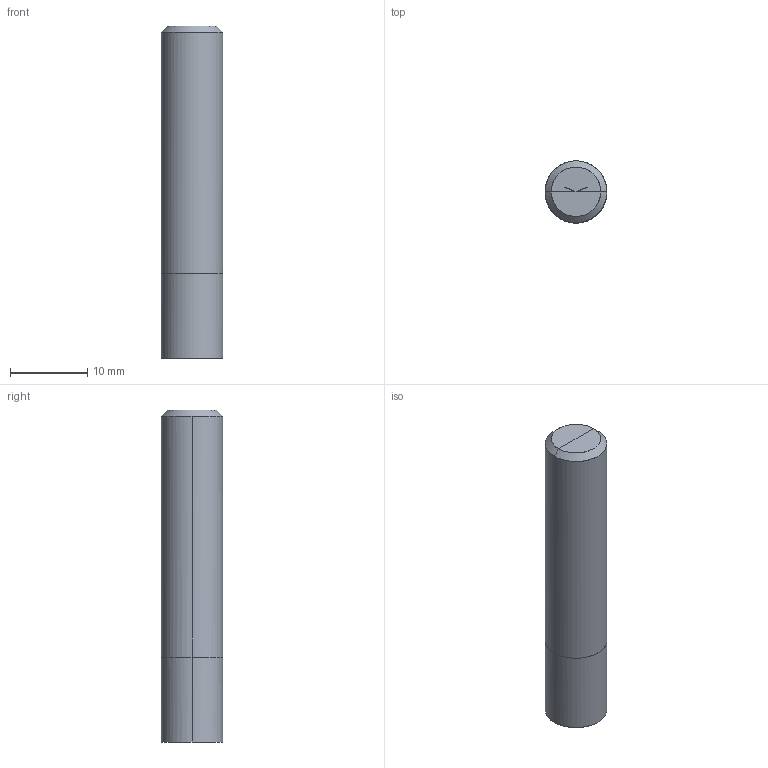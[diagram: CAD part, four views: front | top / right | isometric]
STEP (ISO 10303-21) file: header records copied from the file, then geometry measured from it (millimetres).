
FILE_DESCRIPTION(/* description */ (''),/* implementation_level */ '2;1');
FILE_NAME(/*name*/ '3152-8.0C',/*time_stamp*/'2021-6-21T14:14:2',/*author*/ ('ISBE GmbH'),/*organization*/ ('ISBE GmbH'),/*preprocessor_version*/ 'STEP IO v1.0',/*originating_system*/ '',/*authorisation*/ '');
FILE_SCHEMA (('AUTOMOTIVE_DESIGN'));
Length unit declared in the file: millimetre
Products named in the file (1): Document
Bounding box: 8 x 7.99 x 43 mm (x, y, z)
Surface area: 1270.9 mm2 (no closed solid volume)
Topology: 0 solids, 14 shells, 14 faces, 59 edges, 54 vertices
Faces by surface type: bspline 14
Entity records: 793 total; most frequent: CARTESIAN_POINT 524, VERTEX_POINT 48, EDGE_CURVE 48, ORIENTED_EDGE 48, DIRECTION 16, EDGE_LOOP 14, FACE_OUTER_BOUND 14, ADVANCED_FACE 14
